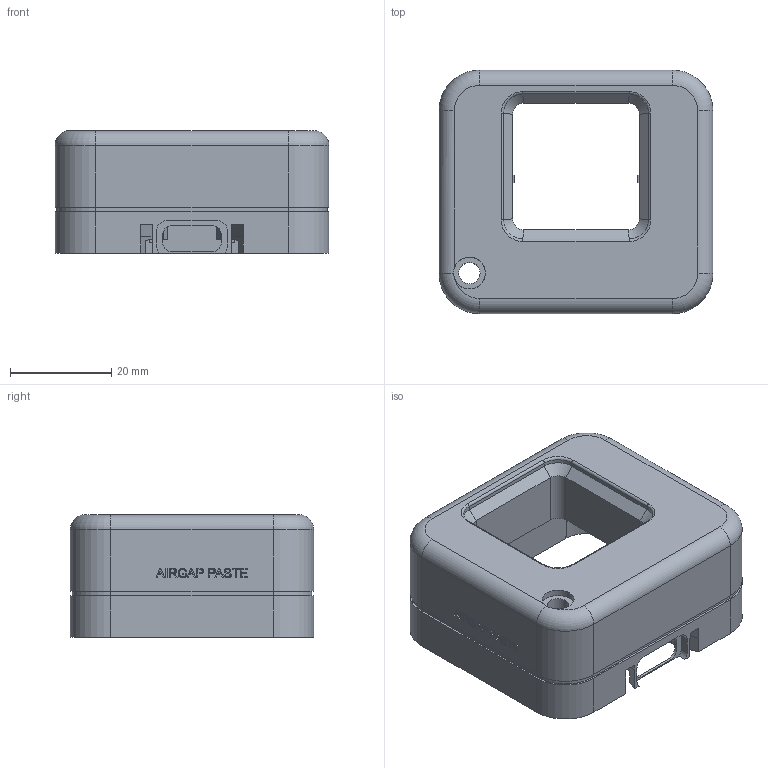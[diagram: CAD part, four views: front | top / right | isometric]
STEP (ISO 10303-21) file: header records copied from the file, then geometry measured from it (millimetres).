
FILE_DESCRIPTION(('Open CASCADE Model'),'2;1');
FILE_NAME('Open CASCADE Shape Model','2026-10-06T21:18:30',('Author'),( 'Open CASCADE'),'Open CASCADE STEP processor 7.9','Open CASCADE 7.9' ,'Unknown');
FILE_SCHEMA(('AUTOMOTIVE_DESIGN { 1 0 10303 214 1 1 1 1 }'));
Length unit declared in the file: millimetre
Products named in the file (1): Open CASCADE STEP translator 7.9 1
Bounding box: 54 x 48 x 24.2 mm (x, y, z)
Volume: 16976.6 mm3; surface area: 17628.2 mm2
Topology: 1 solids, 1 shells, 467 faces, 1262 edges, 824 vertices
Faces by surface type: plane 270, extrusion 100, cylinder 55, bspline 34, torus 8
Full cylindrical faces by diameter (mm): 3.4 x4, 4.2 x1, 6.3 x1
Entity records: 31920 total; most frequent: CARTESIAN_POINT 8820, DIRECTION 3412, ORIENTED_EDGE 2524, PCURVE 2524, DEFINITIONAL_REPRESENTATION 2524, VECTOR 2420, LINE 2320, B_SPLINE_CURVE_WITH_KNOTS 1344
